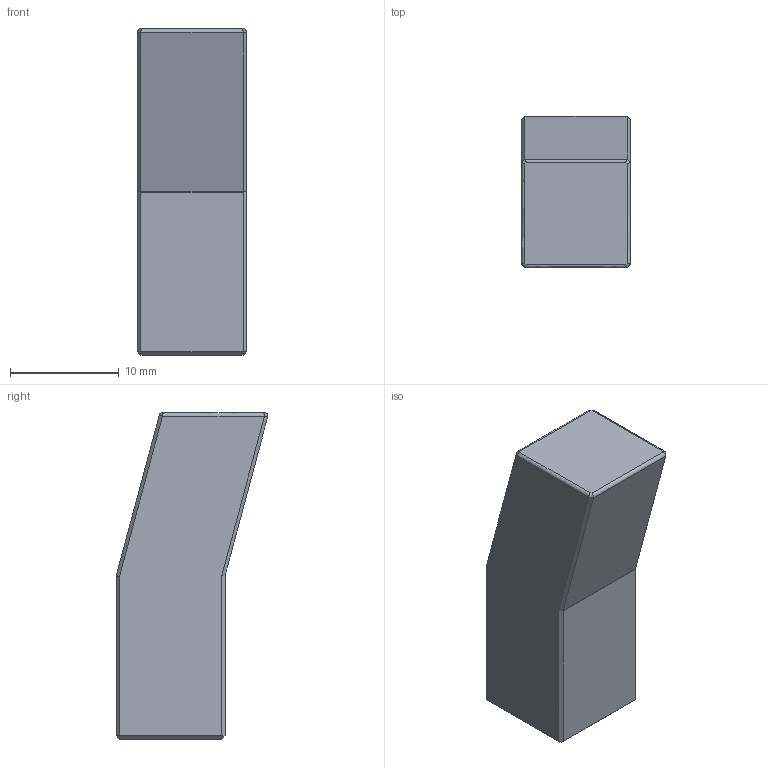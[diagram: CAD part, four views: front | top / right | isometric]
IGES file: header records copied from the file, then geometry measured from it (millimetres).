
Global section: file name: E:\UnigraphicsGraphicData\MISUMI_MOLD-PARTS\NX\3d_ance10_b10_l30_k15_00916_r00.igs; native system: NX V5.0; preprocessor: UGS NX IGES V5.0; author: MISUMI; date: 20101115.182444; units: millimetre
Bounding box: 10 x 13.93 x 30 mm (x, y, z)
Surface area: 1620.3 mm2 (no closed solid volume)
Topology: 0 solids, 0 shells, 37 faces, 207 edges, 206 vertices
Faces by surface type: bspline 37
